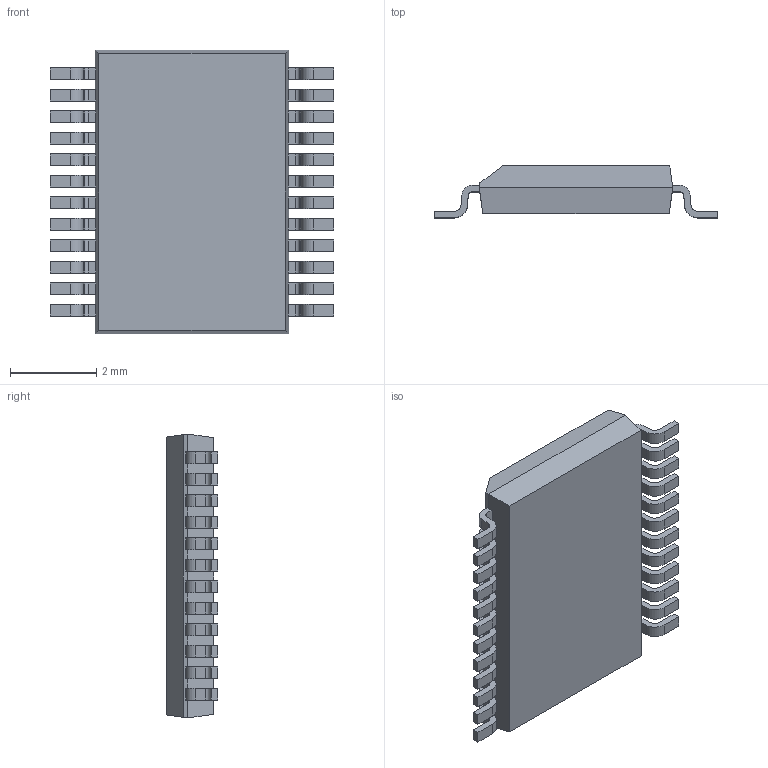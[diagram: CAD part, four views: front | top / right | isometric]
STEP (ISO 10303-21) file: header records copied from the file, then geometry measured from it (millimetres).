
FILE_DESCRIPTION (( 'STEP AP214' ), '1' );
FILE_NAME ('TSSOP50P640X120-24_MO-153.BB.STEP', '2014-10-29T08:29:59', ( 'Tester2' ), ( '' ), 'SwSTEP 2.0', 'SolidWorks 2012', '' );
FILE_SCHEMA (( 'AUTOMOTIVE_DESIGN' ));
Length unit declared in the file: millimetre
Products named in the file (1): TSSOP50P640X120-24_MO-153.BB
Bounding box: 6.6 x 1.2 x 6.6 mm (x, y, z)
Volume: 32.5 mm3; surface area: 108.4 mm2
Topology: 1 solids, 1 shells, 326 faces, 965 edges, 642 vertices
Faces by surface type: plane 228, cylinder 98
Entity records: 14352 total; most frequent: CARTESIAN_POINT 1934, ORIENTED_EDGE 1930, DIRECTION 1815, EDGE_CURVE 965, VECTOR 769, LINE 769, VERTEX_POINT 642, AXIS2_PLACEMENT_3D 523
